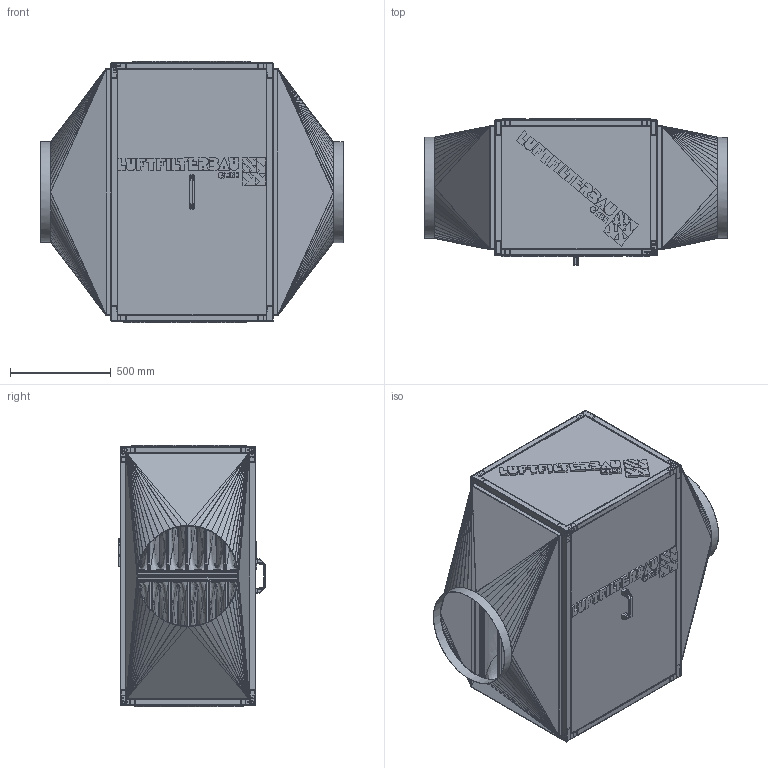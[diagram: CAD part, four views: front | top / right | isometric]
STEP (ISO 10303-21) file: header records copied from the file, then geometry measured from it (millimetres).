
FILE_DESCRIPTION(/* description */ (''),/* implementation_level */ '2;1');
FILE_NAME(/* name */ '\\hs-2000\Benutzer\00 Konstruktion\10_Inventor_Modelle\Inventor\HS-Vario Cat\72-VARIO-CAT-0000103\72-VARIO-CAT-0000103.stp',/* time_stamp */ '2018-08-07T10:00:31+02:00',/* author */ ('ap29'),/* organization */ (''),/* preprocessor_version */ 'ST-DEVELOPER v16.5',/* originating_system */ 'Autodesk Inventor 2017',/* authorisation */ '');
FILE_SCHEMA (('AUTOMOTIVE_DESIGN { 1 0 10303 214 3 1 1 }'));
Products named in the file (1): 72-VARIO-CAT-0000103
Bounding box: 1500.51 x 728 x 1296 mm (x, y, z)
Volume: 14656086.2 mm3; surface area: 23933528.2 mm2
Topology: 3 solids, 19 shells, 9103 faces, 23414 edges, 13963 vertices
Faces by surface type: plane 5761, cylinder 2246, bspline 520, sphere 296, torus 180, cone 100
Full cylindrical faces by diameter (mm): 2 x84, 3 x2, 3.1 x4, 6 x8, 6.2 x2, 6.5 x2, 7 x56, 12 x8, 13 x2, 497 x2, 500 x2
Entity records: 308463 total; most frequent: CARTESIAN_POINT 82495, ORIENTED_EDGE 45792, DIRECTION 44352, EDGE_CURVE 22872, LINE 16220, VECTOR 16220, AXIS2_PLACEMENT_3D 14066, VERTEX_POINT 13757
